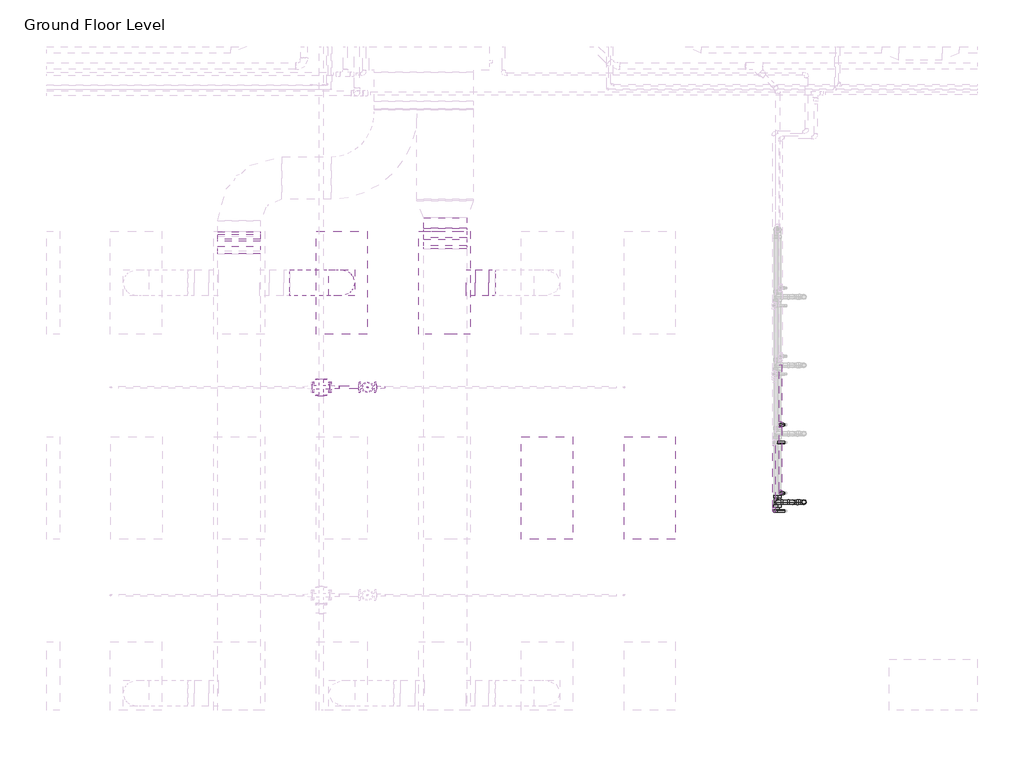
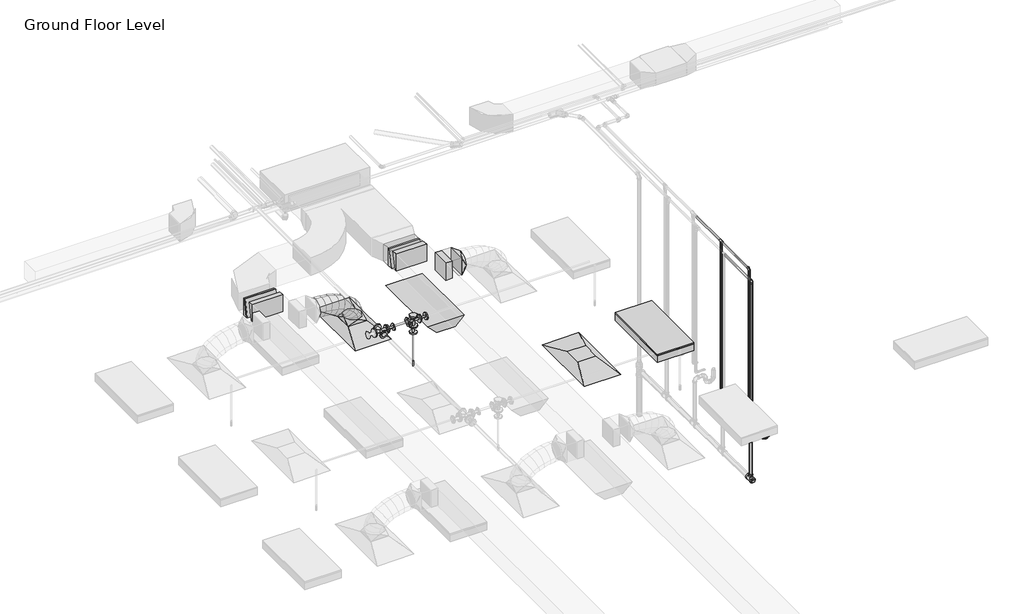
# One storey, part 49 of 74: 17 pipe fittings, 17 pipe segments, 8 duct fittings, 4 duct segments, 2 air terminals, 2 light fixtures, 1 fire suppression terminal.
"""IFC4 building model written with IfcOpenShell, lengths in millimetres."""

from ifc_helpers import new_model, si_unit, point, frame, frame_2d, origin, place, context, project, spatial, polyline, circle_curve, ellipse_curve, trimmed, segment, composite_curve, outline, extrude, transform, mapped, element, save
from ifc_brep_helpers import plane_surface, cylinder_surface, advanced_brep
from components import m_return_diffuser_1200x600_1200_x_600_face_300_x_300_d1983ef6, m_rectangular_elbow_radius_1_w_f78a0081, m_rectangular_elbow_radius_1_w_1a1d0e92, m_rectangular_takeoff_standard_cb0ccb98, m_rectangular_transition_angle_45_degree_8d40617b, m_rectangular_to_round_transition_angle_45_degree_641efff0, m_sprinkler_dry_pendent_hosted_15_mm_dry_pendent_9bda8e11, m_emergency_recessed_lighting_fixture_600x1200_277_5b10b25d, m_troffer_light_parabolic_rectangular1_0600x1200mm_4_lamp_86473d4a, m_bend_pvc_sch_40_dwv_standard_738aab8b, m_cross_flanged_cs_class_150_standard_fc817054, m_plug_pvc_sch_40_dwv_standard_af737ab4, m_reducer_flanged_cs_class_150_standard_ccf252ad, m_reducer_flanged_cs_class_150_standard_d42b2106, m_reducer_flanged_cs_class_150_standard_8338f9e4, m_tee_reducing_sanitary_pvc_sch_40_dwv_standard_21d2848c, m_tee_round_base_flanged_cs_class_150_standard_7e5987a1, standard_b266ab3f, standard_636910a4

model = new_model("IFC4")

# Units and contexts
model_context = context("Model", 3, world=origin())
ifc_project = project(units=[si_unit("LENGTHUNIT", "METRE", prefix="MILLI")], contexts=[model_context])

# Site, building, storey
site = spatial("IfcSite", under=ifc_project)
building = spatial("IfcBuilding", under=site)
storey = spatial("IfcBuildingStorey", under=building, Name="Ground Floor Level", Elevation=900.0)

# Air terminals
placement = place(None, origin())
m_return_diffuser_1200x600_1200_x_600_face_300_x_300_shape = m_return_diffuser_1200x600_1200_x_600_face_300_x_300_d1983ef6(model_context)
element("IfcAirTerminal", 1, ObjectType="M_Return Diffuser 1200x600 : 1200 x 600 Face 300 x 300 Connection", at=placement, inside=storey, context=model_context, shape_type="MappedRepresentation", body=[
    mapped(m_return_diffuser_1200x600_1200_x_600_face_300_x_300_shape, transform((-3337.2327605, 8835.2153534, 3650.0), x_axis=(0.0, 1.0, 0.0), y_axis=(-1.0, 0.0, 0.0), z_axis=(0.0, 0.0, 1.0))),
])
element("IfcAirTerminal", 2, ObjectType="M_Supply Diffuser 1200x600 : 1200 x 600 Face 300 x 300 Connection", at=placement, inside=storey, context=model_context, shape_type="MappedRepresentation", body=[
    mapped(m_return_diffuser_1200x600_1200_x_600_face_300_x_300_shape, transform((-5737.2327605, 11235.2153534, 3650.0), x_axis=(0.0, 1.0, 0.0), y_axis=(-1.0, 0.0, 0.0), z_axis=(0.0, 0.0, 1.0))),
])

# Duct fittings
m_rectangular_elbow_radius_1_w_shape = m_rectangular_elbow_radius_1_w_f78a0081(model_context)
element("IfcDuctFitting", 3, ObjectType="M_Rectangular Elbow - Radius : 1 W", at=placement, inside=storey, context=model_context, shape_type="MappedRepresentation", body=[
    mapped(m_rectangular_elbow_radius_1_w_shape, transform((-4528.6910789, 11671.1593756, 4149.9980527), x_axis=(0.0, 0.999999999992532, -3.864729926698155e-06), y_axis=(0.0, -3.864729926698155e-06, -0.999999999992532), z_axis=(-1.0, 0.0, 0.0))),
])
element("IfcDuctFitting", 4, ObjectType="M_Rectangular Elbow - Radius : 1 W", at=placement, inside=storey, context=model_context, shape_type="MappedRepresentation", body=[
    mapped(m_rectangular_elbow_radius_1_w_shape, transform((-4528.6910789, 11835.9032855, 4107.134916), x_axis=(0.0, -0.999999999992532, 3.864729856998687e-06), y_axis=(0.0, 3.864729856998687e-06, 0.999999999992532), z_axis=(-1.0, 0.0, 0.0))),
])
m_rectangular_elbow_radius_1_w_2_shape = m_rectangular_elbow_radius_1_w_1a1d0e92(model_context)
element("IfcDuctFitting", 5, ObjectType="M_Rectangular Elbow - Radius : 1 W", at=placement, inside=storey, context=model_context, shape_type="MappedRepresentation", body=[
    mapped(m_rectangular_elbow_radius_1_w_2_shape, transform((-6939.6910789, 11605.2153534, 4150.0), x_axis=(0.0, 1.0, 0.0), y_axis=(-4.8368849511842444e-06, 0.0, -0.9999999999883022), z_axis=(-0.9999999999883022, 0.0, 4.8368849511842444e-06))),
])
element("IfcDuctFitting", 6, ObjectType="M_Rectangular Elbow - Radius : 1 W", at=placement, inside=storey, context=model_context, shape_type="MappedRepresentation", body=[
    mapped(m_rectangular_elbow_radius_1_w_2_shape, transform((-6939.6912607, 11801.8710367, 4107.1399598), x_axis=(0.0, -1.0, 0.0), y_axis=(4.836885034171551e-06, 0.0, 0.9999999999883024), z_axis=(-0.9999999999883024, 0.0, 4.836885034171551e-06))),
])
m_rectangular_takeoff_standard_shape = m_rectangular_takeoff_standard_cb0ccb98(model_context)
element("IfcDuctFitting", 7, ObjectType="M_Rectangular Takeoff : Standard", at=placement, inside=storey, context=model_context, shape_type="MappedRepresentation", body=[
    mapped(m_rectangular_takeoff_standard_shape, transform((-4278.6910789, 11235.2153534, 4150.0), x_axis=(1.0, 0.0, 0.0), y_axis=(0.0, -1.0, 0.0), z_axis=(0.0, 0.0, -1.0))),
])
m_rectangular_transition_angle_45_degree_shape = m_rectangular_transition_angle_45_degree_8d40617b(model_context)
element("IfcDuctFitting", 8, ObjectType="M_Rectangular Transition - Angle : 45 Degree", at=placement, inside=storey, context=model_context, shape_type="MappedRepresentation", body=[
    mapped(m_rectangular_transition_angle_45_degree_shape, transform((-6939.6912351, 11774.1025359, 4112.4195134), x_axis=(9.034404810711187e-07, -0.9824014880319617, 0.18678146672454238), y_axis=(0.9999999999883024, 0.0, -4.836885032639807e-06), z_axis=(4.751763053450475e-06, 0.1867814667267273, 0.9824014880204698))),
])
m_rectangular_to_round_transition_angle_45_degree_shape = m_rectangular_to_round_transition_angle_45_degree_641efff0(model_context)
element("IfcDuctFitting", 9, ObjectType="M_Rectangular to Round Transition - Angle : 45 Degree", at=placement, inside=storey, context=model_context, shape_type="MappedRepresentation", body=[
    mapped(m_rectangular_to_round_transition_angle_45_degree_shape, transform((-5737.2327605, 11235.2153534, 3751.6), x_axis=(0.0, 0.0, 1.0), y_axis=(-1.0, 0.0, 0.0), z_axis=(0.0, -1.0, 0.0))),
])
element("IfcDuctFitting", 10, ObjectType="M_Rectangular to Round Transition - Angle : 45 Degree", at=placement, inside=storey, context=model_context, shape_type="MappedRepresentation", body=[
    mapped(m_rectangular_to_round_transition_angle_45_degree_shape, transform((-4018.6725245, 11235.2153534, 4150.0), x_axis=(1.0, 0.0, 0.0), y_axis=(0.0, 1.0, 0.0), z_axis=(0.0, 0.0, 1.0))),
])

# Duct segments
element("IfcDuctSegment", 11, ObjectType="Flex - Round", at=placement, inside=storey, context=model_context, shape_type="AdvancedBrep", body=[
    advanced_brep(
    [(-5587.2327605, 11235.2153534, 3826.6), (-5737.2327605, 11085.2153534, 3826.6), (-5887.2327605, 11235.2153534, 3826.6), (-5737.2327605, 11385.2153534, 3826.6), (-5587.2327605, 11235.2153534, 3882.1261126), (-5737.2327605, 11085.2153534, 3857.3049615), (-5887.2327605, 11235.2153534, 3832.4838104), (-5737.2327605, 11385.2153534, 3857.3049615), (-5618.4260847, 11235.2153534, 3973.7995287), (-5753.8941651, 11085.2153534, 3906.2708192), (-5889.3622454, 11235.2153534, 3838.7421096), (-5753.8941651, 11385.2153534, 3906.2708192), (-5688.1600922, 11235.2153534, 4076.4123668), (-5799.7721827, 11085.2153534, 3973.7798261), (-5911.3842733, 11235.2153534, 3871.1472855), (-5799.7721827, 11385.2153534, 3973.7798261), (-5786.0880408, 11235.2153534, 4155.7111802), (-5868.7075193, 11085.2153534, 4029.6013814), (-5951.3269979, 11235.2153534, 3903.4915826), (-5868.7075193, 11385.2153534, 4029.6013814), (-5894.832581, 11235.2153534, 4212.226815), (-5954.5408807, 11085.2153534, 4074.2098454), (-6014.2491805, 11235.2153534, 3936.1928758), (-5954.5408807, 11385.2153534, 4074.2098454), (-6009.1243732, 11235.2153534, 4252.311196), (-6051.1129728, 11085.2153534, 4108.0795788), (-6093.1015724, 11235.2153534, 3963.8479616), (-6051.1129728, 11385.2153534, 4108.0795788), (-6124.8554478, 11235.2153534, 4279.3189347), (-6152.2645014, 11085.2153534, 4131.684942), (-6179.6735551, 11235.2153534, 3984.0509494), (-6152.2645014, 11385.2153534, 4131.684942), (-6237.5146065, 11235.2153534, 4294.9501488), (-6251.8361725, 11085.2153534, 4145.5002956), (-6266.1577385, 11235.2153534, 3996.0504424), (-6251.8361725, 11385.2153534, 4145.5002956), (-6332.3362491, 11235.2153534, 4300.0), (-6336.3276445, 11085.2153534, 4150.0), (-6340.31904, 11235.2153534, 4000.0), (-6336.3276445, 11385.2153534, 4150.0), (-6343.6686918, 11235.2153534, 4300.0), (-6343.6686918, 11385.2153534, 4150.0), (-6343.6686918, 11235.2153534, 4000.0), (-6343.6686918, 11085.2153534, 4150.0)],
    [
        (0, 1, circle_curve(frame((-5737.2327605, 11235.2153534, 3826.6), z_axis=(0.0, 0.0, -1.0), x_axis=(1.0, 0.0, 0.0)), 150.0)),
        (1, 2, circle_curve(frame((-5737.2327605, 11235.2153534, 3826.6), z_axis=(0.0, 0.0, -1.0), x_axis=(1.0, 0.0, 0.0)), 150.0)),
        (2, 3, circle_curve(frame((-5737.2327605, 11235.2153534, 3826.6), z_axis=(0.0, 0.0, -1.0), x_axis=(1.0, 0.0, 0.0)), 150.0)),
        (3, 0, circle_curve(frame((-5737.2327605, 11235.2153534, 3826.6), z_axis=(0.0, 0.0, -1.0), x_axis=(1.0, 0.0, 0.0)), 150.0)),
        (0, 4),
        (4, 5, ellipse_curve(frame((-5737.2327605, 11235.2153534, 3857.3049615), z_axis=(0.1632543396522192, 0.0, -0.9865840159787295), x_axis=(-0.9865840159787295, 0.0, -0.16325433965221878)), 152.039763, 150.0)),
        (5, 1),
        (5, 6, ellipse_curve(frame((-5737.2327605, 11235.2153534, 3857.3049615), z_axis=(0.1632543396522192, 0.0, -0.9865840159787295), x_axis=(-0.9865840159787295, 0.0, -0.16325433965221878)), 152.039763, 150.0)),
        (6, 2),
        (6, 7, ellipse_curve(frame((-5737.2327605, 11235.2153534, 3857.3049615), z_axis=(0.1632543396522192, 0.0, -0.9865840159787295), x_axis=(-0.9865840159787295, 0.0, -0.16325433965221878)), 152.039763, 150.0)),
        (7, 3),
        (7, 4, ellipse_curve(frame((-5737.2327605, 11235.2153534, 3857.3049615), z_axis=(0.1632543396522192, 0.0, -0.9865840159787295), x_axis=(-0.9865840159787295, 0.0, -0.16325433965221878)), 152.039763, 150.0)),
        (4, 8),
        (8, 9, ellipse_curve(frame((-5753.8941651, 11235.2153534, 3906.2708192), z_axis=(0.44612805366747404, 0.0, -0.8949691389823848), x_axis=(-0.8949691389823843, 0.0, -0.44612805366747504)), 151.366203, 150.0)),
        (9, 5),
        (9, 10, ellipse_curve(frame((-5753.8941651, 11235.2153534, 3906.2708192), z_axis=(0.44612805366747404, 0.0, -0.8949691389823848), x_axis=(-0.8949691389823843, 0.0, -0.44612805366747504)), 151.366203, 150.0)),
        (10, 6),
        (10, 11, ellipse_curve(frame((-5753.8941651, 11235.2153534, 3906.2708192), z_axis=(0.44612805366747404, 0.0, -0.8949691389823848), x_axis=(-0.8949691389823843, 0.0, -0.44612805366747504)), 151.366203, 150.0)),
        (11, 7),
        (11, 8, ellipse_curve(frame((-5753.8941651, 11235.2153534, 3906.2708192), z_axis=(0.44612805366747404, 0.0, -0.8949691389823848), x_axis=(-0.8949691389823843, 0.0, -0.44612805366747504)), 151.366203, 150.0)),
        (8, 12),
        (12, 13, ellipse_curve(frame((-5799.7721827, 11235.2153534, 3973.7798261), z_axis=(0.6768758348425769, 0.0, -0.7360972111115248), x_axis=(-0.7360972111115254, 0.0, -0.6768758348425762)), 151.6268352, 150.0)),
        (13, 9),
        (13, 14, ellipse_curve(frame((-5799.7721827, 11235.2153534, 3973.7798261), z_axis=(0.6768758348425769, 0.0, -0.7360972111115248), x_axis=(-0.7360972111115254, 0.0, -0.6768758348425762)), 151.6268352, 150.0)),
        (14, 10),
        (14, 15, ellipse_curve(frame((-5799.7721827, 11235.2153534, 3973.7798261), z_axis=(0.6768758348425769, 0.0, -0.7360972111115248), x_axis=(-0.7360972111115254, 0.0, -0.6768758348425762)), 151.6268352, 150.0)),
        (15, 11),
        (15, 12, ellipse_curve(frame((-5799.7721827, 11235.2153534, 3973.7798261), z_axis=(0.6768758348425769, 0.0, -0.7360972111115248), x_axis=(-0.7360972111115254, 0.0, -0.6768758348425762)), 151.6268352, 150.0)),
        (12, 16),
        (16, 17, ellipse_curve(frame((-5868.7075193, 11235.2153534, 4029.6013814), z_axis=(0.8364738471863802, 0.0, -0.5480068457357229), x_axis=(-0.5480068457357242, 0.0, -0.8364738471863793)), 150.7635884, 150.0)),
        (17, 13),
        (17, 18, ellipse_curve(frame((-5868.7075193, 11235.2153534, 4029.6013814), z_axis=(0.8364738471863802, 0.0, -0.5480068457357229), x_axis=(-0.5480068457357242, 0.0, -0.8364738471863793)), 150.7635884, 150.0)),
        (18, 14),
        (18, 19, ellipse_curve(frame((-5868.7075193, 11235.2153534, 4029.6013814), z_axis=(0.8364738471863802, 0.0, -0.5480068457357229), x_axis=(-0.5480068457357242, 0.0, -0.8364738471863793)), 150.7635884, 150.0)),
        (19, 15),
        (19, 16, ellipse_curve(frame((-5868.7075193, 11235.2153534, 4029.6013814), z_axis=(0.8364738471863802, 0.0, -0.5480068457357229), x_axis=(-0.5480068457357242, 0.0, -0.8364738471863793)), 150.7635884, 150.0)),
        (16, 20),
        (20, 21, ellipse_curve(frame((-5954.5408807, 11235.2153534, 4074.2098454), z_axis=(0.9177957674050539, 0.0, -0.39705280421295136), x_axis=(-0.39705280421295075, 0.0, -0.9177957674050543)), 150.3787384, 150.0)),
        (21, 17),
        (21, 22, ellipse_curve(frame((-5954.5408807, 11235.2153534, 4074.2098454), z_axis=(0.9177957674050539, 0.0, -0.39705280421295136), x_axis=(-0.39705280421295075, 0.0, -0.9177957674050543)), 150.3787384, 150.0)),
        (22, 18),
        (22, 23, ellipse_curve(frame((-5954.5408807, 11235.2153534, 4074.2098454), z_axis=(0.9177957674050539, 0.0, -0.39705280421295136), x_axis=(-0.39705280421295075, 0.0, -0.9177957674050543)), 150.3787384, 150.0)),
        (23, 19),
        (23, 20, ellipse_curve(frame((-5954.5408807, 11235.2153534, 4074.2098454), z_axis=(0.9177957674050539, 0.0, -0.39705280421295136), x_axis=(-0.39705280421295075, 0.0, -0.9177957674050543)), 150.3787384, 150.0)),
        (20, 24),
        (24, 25, ellipse_curve(frame((-6051.1129728, 11235.2153534, 4108.0795788), z_axis=(0.9601411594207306, 0.0, -0.2795155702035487), x_axis=(-0.27951557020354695, 0.0, -0.9601411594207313)), 150.2191795, 150.0)),
        (25, 21),
        (25, 26, ellipse_curve(frame((-6051.1129728, 11235.2153534, 4108.0795788), z_axis=(0.9601411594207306, 0.0, -0.2795155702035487), x_axis=(-0.27951557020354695, 0.0, -0.9601411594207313)), 150.2191795, 150.0)),
        (26, 22),
        (26, 27, ellipse_curve(frame((-6051.1129728, 11235.2153534, 4108.0795788), z_axis=(0.9601411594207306, 0.0, -0.2795155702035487), x_axis=(-0.27951557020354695, 0.0, -0.9601411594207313)), 150.2191795, 150.0)),
        (27, 23),
        (27, 24, ellipse_curve(frame((-6051.1129728, 11235.2153534, 4108.0795788), z_axis=(0.9601411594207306, 0.0, -0.2795155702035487), x_axis=(-0.27951557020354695, 0.0, -0.9601411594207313)), 150.2191795, 150.0)),
        (24, 28),
        (28, 29, ellipse_curve(frame((-6152.2645014, 11235.2153534, 4131.684942), z_axis=(0.9831991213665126, 0.0, -0.1825362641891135), x_axis=(-0.1825362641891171, 0.0, -0.9831991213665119)), 150.1567581, 150.0)),
        (29, 25),
        (29, 30, ellipse_curve(frame((-6152.2645014, 11235.2153534, 4131.684942), z_axis=(0.9831991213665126, 0.0, -0.1825362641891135), x_axis=(-0.1825362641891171, 0.0, -0.9831991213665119)), 150.1567581, 150.0)),
        (30, 26),
        (30, 31, ellipse_curve(frame((-6152.2645014, 11235.2153534, 4131.684942), z_axis=(0.9831991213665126, 0.0, -0.1825362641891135), x_axis=(-0.1825362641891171, 0.0, -0.9831991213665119)), 150.1567581, 150.0)),
        (31, 27),
        (31, 28, ellipse_curve(frame((-6152.2645014, 11235.2153534, 4131.684942), z_axis=(0.9831991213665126, 0.0, -0.1825362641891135), x_axis=(-0.1825362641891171, 0.0, -0.9831991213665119)), 150.1567581, 150.0)),
        (28, 32),
        (32, 33, ellipse_curve(frame((-6251.8361725, 11235.2153534, 4145.5002956), z_axis=(0.9954398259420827, 0.0, -0.09539157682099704), x_axis=(-0.09539157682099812, 0.0, -0.9954398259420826)), 150.1344926, 150.0)),
        (33, 29),
        (33, 34, ellipse_curve(frame((-6251.8361725, 11235.2153534, 4145.5002956), z_axis=(0.9954398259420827, 0.0, -0.09539157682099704), x_axis=(-0.09539157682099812, 0.0, -0.9954398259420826)), 150.1344926, 150.0)),
        (34, 30),
        (34, 35, ellipse_curve(frame((-6251.8361725, 11235.2153534, 4145.5002956), z_axis=(0.9954398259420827, 0.0, -0.09539157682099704), x_axis=(-0.09539157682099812, 0.0, -0.9954398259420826)), 150.1344926, 150.0)),
        (35, 31),
        (35, 32, ellipse_curve(frame((-6251.8361725, 11235.2153534, 4145.5002956), z_axis=(0.9954398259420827, 0.0, -0.09539157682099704), x_axis=(-0.09539157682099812, 0.0, -0.9954398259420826)), 150.1344926, 150.0)),
        (32, 36),
        (36, 37, ellipse_curve(frame((-6336.3276445, 11235.2153534, 4150.0), z_axis=(0.9996461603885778, 0.0, -0.026599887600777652), x_axis=(-0.026599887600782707, 0.0, -0.9996461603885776)), 150.0530947, 150.0)),
        (37, 33),
        (37, 38, ellipse_curve(frame((-6336.3276445, 11235.2153534, 4150.0), z_axis=(0.9996461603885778, 0.0, -0.026599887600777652), x_axis=(-0.026599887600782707, 0.0, -0.9996461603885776)), 150.0530947, 150.0)),
        (38, 34),
        (38, 39, ellipse_curve(frame((-6336.3276445, 11235.2153534, 4150.0), z_axis=(0.9996461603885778, 0.0, -0.026599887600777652), x_axis=(-0.026599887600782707, 0.0, -0.9996461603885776)), 150.0530947, 150.0)),
        (39, 35),
        (39, 36, ellipse_curve(frame((-6336.3276445, 11235.2153534, 4150.0), z_axis=(0.9996461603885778, 0.0, -0.026599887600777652), x_axis=(-0.026599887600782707, 0.0, -0.9996461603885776)), 150.0530947, 150.0)),
        (40, 41, circle_curve(frame((-6343.6686918, 11235.2153534, 4150.0), z_axis=(-1.0, 0.0, 0.0), x_axis=(0.0, 0.0, 1.0)), 150.0)),
        (41, 42, circle_curve(frame((-6343.6686918, 11235.2153534, 4150.0), z_axis=(-1.0, 0.0, 0.0), x_axis=(0.0, 0.0, 1.0)), 150.0)),
        (42, 43, circle_curve(frame((-6343.6686918, 11235.2153534, 4150.0), z_axis=(-1.0, 0.0, 0.0), x_axis=(0.0, 0.0, 1.0)), 150.0)),
        (43, 40, circle_curve(frame((-6343.6686918, 11235.2153534, 4150.0), z_axis=(-1.0, 0.0, 0.0), x_axis=(0.0, 0.0, 1.0)), 150.0)),
        (36, 40),
        (43, 37),
        (42, 38),
        (41, 39),
    ],
    [
        plane_surface(frame((-5737.2327605, 11085.2153534, 3826.6), z_axis=(0.0, 0.0, -1.0), x_axis=(1.0, 0.0, 0.0))),
        cylinder_surface(frame((-5737.2327605, 11235.2153534, 3826.6), z_axis=(0.0, 0.0, -1.0), x_axis=(1.0, 0.0, 0.0)), 150.0),
        cylinder_surface(frame((-5737.2327605, 11235.2153534, 3857.3049615), z_axis=(0.32212824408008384, 0.0, -0.9466960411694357), x_axis=(0.9466960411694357, 0.0, 0.32212824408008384)), 150.0),
        cylinder_surface(frame((-5753.8941651, 11235.2153534, 3906.2708192), z_axis=(0.5620745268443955, 0.0, -0.8270865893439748), x_axis=(0.8270865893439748, 0.0, 0.5620745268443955)), 150.0),
        cylinder_surface(frame((-5799.7721827, 11235.2153534, 3973.7798261), z_axis=(0.777152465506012, 0.0, -0.6293123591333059), x_axis=(0.6293123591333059, 0.0, 0.777152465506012)), 150.0),
        cylinder_surface(frame((-5868.7075193, 11235.2153534, 4029.6013814), z_axis=(0.887322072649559, 0.0, -0.4611502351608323), x_axis=(0.4611502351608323, 0.0, 0.887322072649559)), 150.0),
        cylinder_surface(frame((-5954.5408807, 11235.2153534, 4074.2098454), z_axis=(0.9436464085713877, 0.0, -0.3309553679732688), x_axis=(0.3309553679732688, 0.0, 0.9436464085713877)), 150.0),
        cylinder_surface(frame((-6051.1129728, 11235.2153534, 4108.0795788), z_axis=(0.9738340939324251, 0.0, -0.22726010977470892), x_axis=(0.22726010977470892, 0.0, 0.9738340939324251)), 150.0),
        cylinder_surface(frame((-6152.2645014, 11235.2153534, 4131.684942), z_axis=(0.9905113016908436, 0.0, -0.137431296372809), x_axis=(0.137431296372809, 0.0, 0.9905113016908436)), 150.0),
        cylinder_surface(frame((-6251.8361725, 11235.2153534, 4145.5002956), z_axis=(0.998584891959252, 0.0, -0.05318095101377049), x_axis=(0.05318095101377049, 0.0, 0.998584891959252)), 150.0),
        plane_surface(frame((-6343.6686918, 11235.2153534, 4000.0), z_axis=(-1.0, 0.0, 0.0), x_axis=(0.0, -1.0, 0.0))),
        cylinder_surface(frame((-6336.3276445, 11235.2153534, 4150.0), z_axis=(1.0, 0.0, 0.0), x_axis=(0.0, 0.0, 1.0)), 150.0),
    ],
    [
        (0, [[1, 2, 3, 4]]),
        (1, [[-1, 5, 6, 7]]),
        (1, [[-2, -7, 8, 9]]),
        (1, [[-3, -9, 10, 11]]),
        (1, [[-4, -11, 12, -5]]),
        (2, [[-6, 13, 14, 15]]),
        (2, [[-8, -15, 16, 17]]),
        (2, [[-10, -17, 18, 19]]),
        (2, [[-12, -19, 20, -13]]),
        (3, [[-14, 21, 22, 23]]),
        (3, [[-16, -23, 24, 25]]),
        (3, [[-18, -25, 26, 27]]),
        (3, [[-20, -27, 28, -21]]),
        (4, [[-22, 29, 30, 31]]),
        (4, [[-24, -31, 32, 33]]),
        (4, [[-26, -33, 34, 35]]),
        (4, [[-28, -35, 36, -29]]),
        (5, [[-30, 37, 38, 39]]),
        (5, [[-32, -39, 40, 41]]),
        (5, [[-34, -41, 42, 43]]),
        (5, [[-36, -43, 44, -37]]),
        (6, [[-38, 45, 46, 47]]),
        (6, [[-40, -47, 48, 49]]),
        (6, [[-42, -49, 50, 51]]),
        (6, [[-44, -51, 52, -45]]),
        (7, [[-46, 53, 54, 55]]),
        (7, [[-48, -55, 56, 57]]),
        (7, [[-50, -57, 58, 59]]),
        (7, [[-52, -59, 60, -53]]),
        (8, [[-54, 61, 62, 63]]),
        (8, [[-56, -63, 64, 65]]),
        (8, [[-58, -65, 66, 67]]),
        (8, [[-60, -67, 68, -61]]),
        (9, [[-62, 69, 70, 71]]),
        (9, [[-64, -71, 72, 73]]),
        (9, [[-66, -73, 74, 75]]),
        (9, [[-68, -75, 76, -69]]),
        (10, [[77, 78, 79, 80]]),
        (11, [[-70, 81, -80, 82]]),
        (11, [[-72, -82, -79, 83]]),
        (11, [[-74, -83, -78, 84]]),
        (11, [[-76, -84, -77, -81]]),
    ],
),
])
element("IfcDuctSegment", 12, ObjectType="Radius Elbows / Taps", at=placement, inside=storey, context=model_context, shape_type="SweptSolid", body=[
    extrude(outline(polyline([(-4177.0910789, 11085.2153534), (-4177.0910789, 11385.2153534), (-4018.6725245, 11385.2153534), (-4018.6725245, 11085.2153534), (-4177.0910789, 11085.2153534)])), frame((0.0, 0.0, 4000.0), z_axis=(0.0, 0.0, 1.0), x_axis=(1.0, 0.0, 0.0)), (0.0, 0.0, 1.0), 300.0),
])
element("IfcDuctSegment", 13, ObjectType="Radius Elbows / Taps", at=placement, inside=storey, context=model_context, shape_type="SweptSolid", body=[
    extrude(outline(polyline([(-4778.6910789, 11996.8633064), (-4278.6910789, 11996.8633064), (-4278.6910789, 11874.2907355), (-4778.6910789, 11874.2907355), (-4778.6910789, 11996.8633064)])), frame((0.0, 0.0, 3957.1342939), z_axis=(0.0, 0.0, 1.0), x_axis=(1.0, 0.0, 0.0)), (0.0, 0.0, 1.0), 300.0),
])
element("IfcDuctSegment", 14, ObjectType="Radius Elbows / Taps", at=placement, inside=storey, context=model_context, shape_type="SweptSolid", body=[
    extrude(outline(polyline([(0.0, -500.0), (0.0, 0.0), (93.4537824, 0.0), (93.4537824, -500.0), (0.0, -500.0)])), frame((-4778.6910789, 11670.5403736, 3995.1651971), z_axis=(0.0, 0.25179738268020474, 0.9677799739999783), x_axis=(0.0, 0.9677799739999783, -0.25179738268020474)), (0.0, 0.0, 1.0), 300.0),
])

# Fire suppression terminal
m_sprinkler_dry_pendent_hosted_15_mm_dry_pendent_shape = m_sprinkler_dry_pendent_hosted_15_mm_dry_pendent_9bda8e11(model_context)
element("IfcFireSuppressionTerminal", 15, ObjectType="M_Sprinkler - Dry - Pendent - Hosted : 15 mm Dry Pendent", at=placement, inside=storey, context=model_context, shape_type="MappedRepresentation", body=[
    mapped(m_sprinkler_dry_pendent_hosted_15_mm_dry_pendent_shape, transform((-5437.2327605, 10013.008259, 3650.0), x_axis=(1.0, 0.0, 0.0), y_axis=(0.0, -1.0, 0.0), z_axis=(0.0, 0.0, -1.0))),
])

# Light fixtures
m_emergency_recessed_lighting_fixture_600x1200_277_shape = m_emergency_recessed_lighting_fixture_600x1200_277_5b10b25d(model_context)
element("IfcLightFixture", 16, ObjectType="M_Emergency Recessed Lighting Fixture : 600x1200 - 277", at=placement, inside=storey, context=model_context, shape_type="MappedRepresentation", body=[
    mapped(m_emergency_recessed_lighting_fixture_600x1200_277_shape, transform((-4837.2327605, 10635.2153534, 3650.0), x_axis=(0.0, 1.0, 0.0), y_axis=(-1.0, 0.0, 0.0), z_axis=(0.0, 0.0, 1.0))),
])
m_troffer_light_parabolic_rectangular1_0600x1200mm_4_lamp_shape = m_troffer_light_parabolic_rectangular1_0600x1200mm_4_lamp_86473d4a(model_context)
element("IfcLightFixture", 17, ObjectType="M_Troffer Light - Parabolic Rectangular1 : 0600x1200mm(4 Lamp) - 277V 2", at=placement, inside=storey, context=model_context, shape_type="MappedRepresentation", body=[
    mapped(m_troffer_light_parabolic_rectangular1_0600x1200mm_4_lamp_shape, transform((-2196.6986926, 8853.918855, 3650.0), x_axis=(0.0, 1.0, 0.0), y_axis=(-1.0, 0.0, 0.0), z_axis=(0.0, 0.0, 1.0))),
])

# Pipe fittings
m_bend_pvc_sch_40_dwv_standard_shape = m_bend_pvc_sch_40_dwv_standard_738aab8b(model_context)
element("IfcPipeFitting", 18, ObjectType="M_Bend - PVC - Sch 40 - DWV : Standard", at=placement, inside=storey, context=model_context, shape_type="MappedRepresentation", body=[
    mapped(m_bend_pvc_sch_40_dwv_standard_shape, transform((-463.6645494, 8671.1979139, 1370.0), x_axis=(-1.0, 0.0, 0.0), y_axis=(0.0, 0.0, 1.0), z_axis=(0.0, 1.0, 0.0))),
])
element("IfcPipeFitting", 19, ObjectType="M_Bend - PVC - Sch 40 - DWV : Standard", at=placement, inside=storey, context=model_context, shape_type="MappedRepresentation", body=[
    mapped(m_bend_pvc_sch_40_dwv_standard_shape, transform((-463.6645494, 8671.1979139, 1510.0), x_axis=(0.0, 0.0, 1.0), y_axis=(-1.0, 0.0, 0.0), z_axis=(0.0, -1.0, 0.0))),
])
element("IfcPipeFitting", 20, ObjectType="M_Bend - PVC - Sch 40 - DWV : Standard", at=placement, inside=storey, context=model_context, shape_type="MappedRepresentation", body=[
    mapped(m_bend_pvc_sch_40_dwv_standard_shape, transform((-333.6645494, 8671.1979139, 1370.0), x_axis=(1.0, 0.0, 0.0), y_axis=(0.0, 0.0, 1.0), z_axis=(0.0, -1.0, 0.0))),
])
element("IfcPipeFitting", 21, ObjectType="M_Bend - PVC - Sch 40 - DWV : Standard", at=placement, inside=storey, context=model_context, shape_type="MappedRepresentation", body=[
    mapped(m_bend_pvc_sch_40_dwv_standard_shape, transform((-642.2301761, 8671.1979139, 1510.0), x_axis=(-1.0, 0.0, 0.0), y_axis=(0.0, 0.0, -1.0), z_axis=(0.0, -1.0, 0.0))),
])
m_cross_flanged_cs_class_150_standard_shape = m_cross_flanged_cs_class_150_standard_fc817054(model_context)
element("IfcPipeFitting", 22, ObjectType="M_Cross - Flanged - CS - Class 150 : Standard", at=placement, inside=storey, context=model_context, shape_type="MappedRepresentation", body=[
    mapped(m_cross_flanged_cs_class_150_standard_shape, transform((-5978.130502, 10013.008259, 4360.0), x_axis=(0.0, 1.0, 0.0), y_axis=(1.0, 0.0, 0.0), z_axis=(0.0, 0.0, -1.0))),
])
m_plug_pvc_sch_40_dwv_standard_shape = m_plug_pvc_sch_40_dwv_standard_af737ab4(model_context)
element("IfcPipeFitting", 23, ObjectType="M_Plug - PVC - Sch 40 - DWV : Standard", at=placement, inside=storey, context=model_context, shape_type="MappedRepresentation", body=[
    mapped(m_plug_pvc_sch_40_dwv_standard_shape, transform((-642.2301761, 8611.7151447, 727.6937137), x_axis=(0.0, -0.9999500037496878, 0.009999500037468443), y_axis=(0.0, -0.009999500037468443, -0.9999500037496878), z_axis=(1.0, 0.0, 0.0))),
])
m_reducer_flanged_cs_class_150_standard_shape = m_reducer_flanged_cs_class_150_standard_ccf252ad(model_context)
element("IfcPipeFitting", 24, ObjectType="M_Reducer - Flanged - CS - Class 150 : Standard", at=placement, inside=storey, context=model_context, shape_type="MappedRepresentation", body=[
    mapped(m_reducer_flanged_cs_class_150_standard_shape, transform((-5437.2327605, 10013.008259, 4259.2914063), x_axis=(0.0, 0.0, -1.0), y_axis=(-1.0, 0.0, 0.0), z_axis=(0.0, 1.0, 0.0))),
])
m_reducer_flanged_cs_class_150_standard_2_shape = m_reducer_flanged_cs_class_150_standard_d42b2106(model_context)
element("IfcPipeFitting", 25, ObjectType="M_Reducer - Flanged - CS - Class 150 : Standard", at=placement, inside=storey, context=model_context, shape_type="MappedRepresentation", body=[
    mapped(m_reducer_flanged_cs_class_150_standard_2_shape, transform((-5336.5241668, 10013.008259, 4360.0), x_axis=(1.0, 0.0, 0.0), y_axis=(0.0, 1.0, 0.0), z_axis=(0.0, 0.0, 1.0))),
])
m_reducer_flanged_cs_class_150_standard_3_shape = m_reducer_flanged_cs_class_150_standard_8338f9e4(model_context)
element("IfcPipeFitting", 26, ObjectType="M_Reducer - Flanged - CS - Class 150 : Standard", at=placement, inside=storey, context=model_context, shape_type="MappedRepresentation", body=[
    mapped(m_reducer_flanged_cs_class_150_standard_3_shape, transform((-5876.130502, 10013.008259, 4360.0), x_axis=(1.0, 0.0, 0.0), y_axis=(0.0, 1.0, 0.0), z_axis=(0.0, 0.0, 1.0))),
])
m_tee_reducing_sanitary_pvc_sch_40_dwv_standard_shape = m_tee_reducing_sanitary_pvc_sch_40_dwv_standard_21d2848c(model_context)
element("IfcPipeFitting", 27, ObjectType="M_Tee Reducing Sanitary - PVC - Sch 40 - DWV : Standard", at=placement, inside=storey, context=model_context, shape_type="MappedRepresentation", body=[
    mapped(m_tee_reducing_sanitary_pvc_sch_40_dwv_standard_shape, transform((-642.2301761, 8671.1979139, 727.098886), x_axis=(0.0, -0.9999500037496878, 0.009999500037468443), y_axis=(0.0, -0.009999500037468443, -0.9999500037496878), z_axis=(1.0, 0.0, 0.0))),
])
m_tee_round_base_flanged_cs_class_150_standard_shape = m_tee_round_base_flanged_cs_class_150_standard_7e5987a1(model_context)
element("IfcPipeFitting", 28, ObjectType="M_Tee Round Base - Flanged - CS - Class 150 : Standard", at=placement, inside=storey, context=model_context, shape_type="MappedRepresentation", body=[
    mapped(m_tee_round_base_flanged_cs_class_150_standard_shape, transform((-5437.2327605, 10013.008259, 4360.0), x_axis=(1.0, 0.0, 0.0), y_axis=(0.0, 0.0, 1.0), z_axis=(0.0, -1.0, 0.0))),
])
standard_shape = standard_b266ab3f(model_context)
element("IfcPipeFitting", 29, ObjectType="M_Elbow - CPVC - Sch 40 : Standard", at=placement, inside=storey, context=model_context, shape_type="MappedRepresentation", body=[
    mapped(standard_shape, transform((-607.2327605, 9575.5128345, 1690.0), x_axis=(0.0, 0.0, -1.0), y_axis=(1.0, 0.0, 0.0), z_axis=(0.0, -1.0, 0.0))),
])
element("IfcPipeFitting", 30, ObjectType="M_Elbow - CPVC - Sch 40 : Standard", at=placement, inside=storey, context=model_context, shape_type="MappedRepresentation", body=[
    mapped(standard_shape, transform((-607.2327605, 8775.5128345, 1690.0), x_axis=(0.0, 0.0, -1.0), y_axis=(1.0, 0.0, 0.0), z_axis=(0.0, -1.0, 0.0))),
])
element("IfcPipeFitting", 31, ObjectType="M_Elbow - CPVC - Sch 40 : Standard", at=placement, inside=storey, context=model_context, shape_type="MappedRepresentation", body=[
    mapped(standard_shape, transform((-607.2327605, 8775.5128345, 4315.0), x_axis=(0.0, -1.0, 0.0), y_axis=(0.0, 0.0, -1.0), z_axis=(1.0, 0.0, 0.0))),
])
element("IfcPipeFitting", 32, ObjectType="M_Elbow - CPVC - Sch 40 : Standard", at=placement, inside=storey, context=model_context, shape_type="MappedRepresentation", body=[
    mapped(standard_shape, transform((-684.0671674, 8566.8829933, 1690.0), x_axis=(-1.0, 0.0, 0.0), y_axis=(0.0, 0.0, 1.0), z_axis=(0.0, 1.0, 0.0))),
])
element("IfcPipeFitting", 33, ObjectType="M_Elbow - CPVC - Sch 40 : Standard", at=placement, inside=storey, context=model_context, shape_type="MappedRepresentation", body=[
    mapped(standard_shape, transform((-684.0671674, 8566.8829933, 4250.0), x_axis=(0.0, 0.0, 1.0), y_axis=(0.0, 1.0, 0.0), z_axis=(-1.0, 0.0, 0.0))),
])
standard_2_shape = standard_636910a4(model_context)
element("IfcPipeFitting", 34, ObjectType="M_Tee - CPVC - Sch 40 : Standard", at=placement, inside=storey, context=model_context, shape_type="MappedRepresentation", body=[
    mapped(standard_2_shape, transform((-607.2327605, 9575.5128345, 4315.0), x_axis=(0.0, 1.0, 0.0), y_axis=(0.0, 0.0, 1.0), z_axis=(1.0, 0.0, 0.0))),
])

# Pipe segments
element("IfcPipeSegment", 35, ObjectType="CPVC", at=placement, inside=storey, context=model_context, shape_type="SweptSolid", body=[
    extrude(outline(composite_curve([segment(trimmed(circle_curve(frame_2d((9575.5128345, 1690.0)), 13.335), [point((9562.1778345, 1690.0))], [point((9575.5128345, 1703.335))], False, "CARTESIAN"), True, "CONTINUOUS"), segment(trimmed(circle_curve(frame_2d((9575.5128345, 1690.0)), 13.335), [point((9575.5128345, 1703.335))], [point((9588.8478345, 1690.0))], False, "CARTESIAN"), True, "CONTINUOUS"), segment(trimmed(circle_curve(frame_2d((9575.5128345, 1690.0)), 13.335), [point((9588.8478345, 1690.0))], [point((9575.5128345, 1676.665))], False, "CARTESIAN"), True, "CONTINUOUS"), segment(trimmed(circle_curve(frame_2d((9575.5128345, 1690.0)), 13.335), [point((9575.5128345, 1676.665))], [point((9562.1778345, 1690.0))], False, "CARTESIAN"), True, "CONTINUOUS")], self_intersect=False)), frame((-571.9077105, 0.0, 0.0), z_axis=(1.0, 0.0, 0.0), x_axis=(0.0, 1.0, 0.0)), (0.0, 0.0, 1.0), 14.67495),
])
element("IfcPipeSegment", 36, ObjectType="CPVC", at=placement, inside=storey, context=model_context, shape_type="SweptSolid", body=[
    extrude(outline(composite_curve([segment(trimmed(circle_curve(frame_2d((-607.2327605, 9575.5128345)), 13.335), [point((-593.8977605, 9575.5128345))], [point((-607.2327605, 9562.1778345))], False, "CARTESIAN"), True, "CONTINUOUS"), segment(trimmed(circle_curve(frame_2d((-607.2327605, 9575.5128345)), 13.335), [point((-607.2327605, 9562.1778345))], [point((-620.5677605, 9575.5128345))], False, "CARTESIAN"), True, "CONTINUOUS"), segment(trimmed(circle_curve(frame_2d((-607.2327605, 9575.5128345)), 13.335), [point((-620.5677605, 9575.5128345))], [point((-607.2327605, 9588.8478345))], False, "CARTESIAN"), True, "CONTINUOUS"), segment(trimmed(circle_curve(frame_2d((-607.2327605, 9575.5128345)), 13.335), [point((-607.2327605, 9588.8478345))], [point((-593.8977605, 9575.5128345))], False, "CARTESIAN"), True, "CONTINUOUS")], self_intersect=False)), frame((0.0, 0.0, 1725.32505), z_axis=(0.0, 0.0, 1.0), x_axis=(1.0, 0.0, 0.0)), (0.0, 0.0, 1.0), 2557.13755),
])
element("IfcPipeSegment", 37, ObjectType="CPVC", at=placement, inside=storey, context=model_context, shape_type="SweptSolid", body=[
    extrude(outline(composite_curve([segment(trimmed(circle_curve(frame_2d((4315.0, -607.2327605)), 13.335), [point((4315.0, -620.5677605))], [point((4301.665, -607.2327605))], False, "CARTESIAN"), True, "CONTINUOUS"), segment(trimmed(circle_curve(frame_2d((4315.0, -607.2327605)), 13.335), [point((4301.665, -607.2327605))], [point((4315.0, -593.8977605))], False, "CARTESIAN"), True, "CONTINUOUS"), segment(trimmed(circle_curve(frame_2d((4315.0, -607.2327605)), 13.335), [point((4315.0, -593.8977605))], [point((4328.335, -607.2327605))], False, "CARTESIAN"), True, "CONTINUOUS"), segment(trimmed(circle_curve(frame_2d((4315.0, -607.2327605)), 13.335), [point((4328.335, -607.2327605))], [point((4315.0, -620.5677605))], False, "CARTESIAN"), True, "CONTINUOUS")], self_intersect=False)), frame((0.0, 9608.0502345, 0.0), z_axis=(0.0, 1.0, 0.0), x_axis=(0.0, 0.0, 1.0)), (0.0, 0.0, 1.0), 670.6124),
])
element("IfcPipeSegment", 38, ObjectType="CPVC", at=placement, inside=storey, context=model_context, shape_type="SweptSolid", body=[
    extrude(outline(composite_curve([segment(trimmed(circle_curve(frame_2d((8775.5128345, 1690.0)), 13.335), [point((8762.1778345, 1690.0))], [point((8775.5128345, 1703.335))], False, "CARTESIAN"), True, "CONTINUOUS"), segment(trimmed(circle_curve(frame_2d((8775.5128345, 1690.0)), 13.335), [point((8775.5128345, 1703.335))], [point((8788.8478345, 1690.0))], False, "CARTESIAN"), True, "CONTINUOUS"), segment(trimmed(circle_curve(frame_2d((8775.5128345, 1690.0)), 13.335), [point((8788.8478345, 1690.0))], [point((8775.5128345, 1676.665))], False, "CARTESIAN"), True, "CONTINUOUS"), segment(trimmed(circle_curve(frame_2d((8775.5128345, 1690.0)), 13.335), [point((8775.5128345, 1676.665))], [point((8762.1778345, 1690.0))], False, "CARTESIAN"), True, "CONTINUOUS")], self_intersect=False)), frame((-571.9077105, 0.0, 0.0), z_axis=(1.0, 0.0, 0.0), x_axis=(0.0, 1.0, 0.0)), (0.0, 0.0, 1.0), 14.67495),
])
element("IfcPipeSegment", 39, ObjectType="CPVC", at=placement, inside=storey, context=model_context, shape_type="SweptSolid", body=[
    extrude(outline(composite_curve([segment(trimmed(circle_curve(frame_2d((-607.2327605, 8775.5128345)), 13.335), [point((-593.8977605, 8775.5128345))], [point((-607.2327605, 8762.1778345))], False, "CARTESIAN"), True, "CONTINUOUS"), segment(trimmed(circle_curve(frame_2d((-607.2327605, 8775.5128345)), 13.335), [point((-607.2327605, 8762.1778345))], [point((-620.5677605, 8775.5128345))], False, "CARTESIAN"), True, "CONTINUOUS"), segment(trimmed(circle_curve(frame_2d((-607.2327605, 8775.5128345)), 13.335), [point((-620.5677605, 8775.5128345))], [point((-607.2327605, 8788.8478345))], False, "CARTESIAN"), True, "CONTINUOUS"), segment(trimmed(circle_curve(frame_2d((-607.2327605, 8775.5128345)), 13.335), [point((-607.2327605, 8788.8478345))], [point((-593.8977605, 8775.5128345))], False, "CARTESIAN"), True, "CONTINUOUS")], self_intersect=False)), frame((0.0, 0.0, 1725.32505), z_axis=(0.0, 0.0, 1.0), x_axis=(1.0, 0.0, 0.0)), (0.0, 0.0, 1.0), 2554.3499),
])
element("IfcPipeSegment", 40, ObjectType="CPVC", at=placement, inside=storey, context=model_context, shape_type="SweptSolid", body=[
    extrude(outline(composite_curve([segment(trimmed(circle_curve(frame_2d((4315.0, -607.2327605)), 13.335), [point((4315.0, -620.5677605))], [point((4301.665, -607.2327605))], False, "CARTESIAN"), True, "CONTINUOUS"), segment(trimmed(circle_curve(frame_2d((4315.0, -607.2327605)), 13.335), [point((4301.665, -607.2327605))], [point((4315.0, -593.8977605))], False, "CARTESIAN"), True, "CONTINUOUS"), segment(trimmed(circle_curve(frame_2d((4315.0, -607.2327605)), 13.335), [point((4315.0, -593.8977605))], [point((4328.335, -607.2327605))], False, "CARTESIAN"), True, "CONTINUOUS"), segment(trimmed(circle_curve(frame_2d((4315.0, -607.2327605)), 13.335), [point((4328.335, -607.2327605))], [point((4315.0, -620.5677605))], False, "CARTESIAN"), True, "CONTINUOUS")], self_intersect=False)), frame((0.0, 8810.8378845, 0.0), z_axis=(0.0, 1.0, 0.0), x_axis=(0.0, 0.0, 1.0)), (0.0, 0.0, 1.0), 732.13755),
])
element("IfcPipeSegment", 41, ObjectType="CPVC", at=placement, inside=storey, context=model_context, shape_type="SweptSolid", body=[
    extrude(outline(composite_curve([segment(trimmed(circle_curve(frame_2d((8566.8829933, 1690.0)), 13.335), [point((8580.2179933, 1690.0))], [point((8566.8829933, 1676.665))], False, "CARTESIAN"), True, "CONTINUOUS"), segment(trimmed(circle_curve(frame_2d((8566.8829933, 1690.0)), 13.335), [point((8566.8829933, 1676.665))], [point((8553.5479933, 1690.0))], False, "CARTESIAN"), True, "CONTINUOUS"), segment(trimmed(circle_curve(frame_2d((8566.8829933, 1690.0)), 13.335), [point((8553.5479933, 1690.0))], [point((8566.8829933, 1703.335))], False, "CARTESIAN"), True, "CONTINUOUS"), segment(trimmed(circle_curve(frame_2d((8566.8829933, 1690.0)), 13.335), [point((8566.8829933, 1703.335))], [point((8580.2179933, 1690.0))], False, "CARTESIAN"), True, "CONTINUOUS")], self_intersect=False)), frame((-648.7421174, 0.0, 0.0), z_axis=(1.0, 0.0, 0.0), x_axis=(0.0, 1.0, 0.0)), (0.0, 0.0, 1.0), 91.5093569),
])
element("IfcPipeSegment", 42, ObjectType="CPVC", at=placement, inside=storey, context=model_context, shape_type="SweptSolid", body=[
    extrude(outline(composite_curve([segment(trimmed(circle_curve(frame_2d((-684.0671674, 8566.8829933)), 13.335), [point((-697.4021674, 8566.8829933))], [point((-684.0671674, 8580.2179933))], False, "CARTESIAN"), True, "CONTINUOUS"), segment(trimmed(circle_curve(frame_2d((-684.0671674, 8566.8829933)), 13.335), [point((-684.0671674, 8580.2179933))], [point((-670.7321674, 8566.8829933))], False, "CARTESIAN"), True, "CONTINUOUS"), segment(trimmed(circle_curve(frame_2d((-684.0671674, 8566.8829933)), 13.335), [point((-670.7321674, 8566.8829933))], [point((-684.0671674, 8553.5479933))], False, "CARTESIAN"), True, "CONTINUOUS"), segment(trimmed(circle_curve(frame_2d((-684.0671674, 8566.8829933)), 13.335), [point((-684.0671674, 8553.5479933))], [point((-697.4021674, 8566.8829933))], False, "CARTESIAN"), True, "CONTINUOUS")], self_intersect=False)), frame((0.0, 0.0, 1725.32505), z_axis=(0.0, 0.0, 1.0), x_axis=(1.0, 0.0, 0.0)), (0.0, 0.0, 1.0), 2489.3499),
])
element("IfcPipeSegment", 43, ObjectType="CPVC", at=placement, inside=storey, context=model_context, shape_type="SweptSolid", body=[
    extrude(outline(composite_curve([segment(trimmed(circle_curve(frame_2d((9366.8829933, 1690.0)), 13.335), [point((9380.2179933, 1690.0))], [point((9366.8829933, 1676.665))], False, "CARTESIAN"), True, "CONTINUOUS"), segment(trimmed(circle_curve(frame_2d((9366.8829933, 1690.0)), 13.335), [point((9366.8829933, 1676.665))], [point((9353.5479933, 1690.0))], False, "CARTESIAN"), True, "CONTINUOUS"), segment(trimmed(circle_curve(frame_2d((9366.8829933, 1690.0)), 13.335), [point((9353.5479933, 1690.0))], [point((9366.8829933, 1703.335))], False, "CARTESIAN"), True, "CONTINUOUS"), segment(trimmed(circle_curve(frame_2d((9366.8829933, 1690.0)), 13.335), [point((9366.8829933, 1703.335))], [point((9380.2179933, 1690.0))], False, "CARTESIAN"), True, "CONTINUOUS")], self_intersect=False)), frame((-648.7421174, 0.0, 0.0), z_axis=(1.0, 0.0, 0.0), x_axis=(0.0, 1.0, 0.0)), (0.0, 0.0, 1.0), 91.5093569),
])
element("IfcPipeSegment", 44, ObjectType="CPVC", at=placement, inside=storey, context=model_context, shape_type="SweptSolid", body=[
    extrude(outline(composite_curve([segment(trimmed(circle_curve(frame_2d((4250.0, -684.0671674)), 13.335), [point((4250.0, -670.7321674))], [point((4263.335, -684.0671674))], False, "CARTESIAN"), True, "CONTINUOUS"), segment(trimmed(circle_curve(frame_2d((4250.0, -684.0671674)), 13.335), [point((4263.335, -684.0671674))], [point((4250.0, -697.4021674))], False, "CARTESIAN"), True, "CONTINUOUS"), segment(trimmed(circle_curve(frame_2d((4250.0, -684.0671674)), 13.335), [point((4250.0, -697.4021674))], [point((4236.665, -684.0671674))], False, "CARTESIAN"), True, "CONTINUOUS"), segment(trimmed(circle_curve(frame_2d((4250.0, -684.0671674)), 13.335), [point((4236.665, -684.0671674))], [point((4250.0, -670.7321674))], False, "CARTESIAN"), True, "CONTINUOUS")], self_intersect=False)), frame((0.0, 8602.2080433, 0.0), z_axis=(0.0, 1.0, 0.0), x_axis=(0.0, 0.0, 1.0)), (0.0, 0.0, 1.0), 732.13755),
])
element("IfcPipeSegment", 45, ObjectType="PVC - DWV", at=placement, inside=storey, context=model_context, shape_type="SweptSolid", body=[
    extrude(outline(composite_curve([segment(trimmed(circle_curve(frame_2d((-333.6645494, 8671.1979139)), 24.13), [point((-357.7945494, 8671.1979139))], [point((-333.6645494, 8695.3279139))], False, "CARTESIAN"), True, "CONTINUOUS"), segment(trimmed(circle_curve(frame_2d((-333.6645494, 8671.1979139)), 24.13), [point((-333.6645494, 8695.3279139))], [point((-309.5345494, 8671.1979139))], False, "CARTESIAN"), True, "CONTINUOUS"), segment(trimmed(circle_curve(frame_2d((-333.6645494, 8671.1979139)), 24.13), [point((-309.5345494, 8671.1979139))], [point((-333.6645494, 8647.0679139))], False, "CARTESIAN"), True, "CONTINUOUS"), segment(trimmed(circle_curve(frame_2d((-333.6645494, 8671.1979139)), 24.13), [point((-333.6645494, 8647.0679139))], [point((-357.7945494, 8671.1979139))], False, "CARTESIAN"), True, "CONTINUOUS")], self_intersect=False)), frame((0.0, 0.0, 1431.8998), z_axis=(0.0, 0.0, 1.0), x_axis=(1.0, 0.0, 0.0)), (0.0, 0.0, 1.0), 118.1002),
])
element("IfcPipeSegment", 46, ObjectType="PVC - DWV", at=placement, inside=storey, context=model_context, shape_type="SweptSolid", body=[
    extrude(outline(composite_curve([segment(trimmed(circle_curve(frame_2d((8671.1979139, 1370.0)), 24.13), [point((8695.3279139, 1370.0))], [point((8671.1979139, 1345.87))], False, "CARTESIAN"), True, "CONTINUOUS"), segment(trimmed(circle_curve(frame_2d((8671.1979139, 1370.0)), 24.13), [point((8671.1979139, 1345.87))], [point((8647.0679139, 1370.0))], False, "CARTESIAN"), True, "CONTINUOUS"), segment(trimmed(circle_curve(frame_2d((8671.1979139, 1370.0)), 24.13), [point((8647.0679139, 1370.0))], [point((8671.1979139, 1394.13))], False, "CARTESIAN"), True, "CONTINUOUS"), segment(trimmed(circle_curve(frame_2d((8671.1979139, 1370.0)), 24.13), [point((8671.1979139, 1394.13))], [point((8695.3279139, 1370.0))], False, "CARTESIAN"), True, "CONTINUOUS")], self_intersect=False)), frame((-401.7647494, 0.0, 0.0), z_axis=(1.0, 0.0, 0.0), x_axis=(0.0, 1.0, 0.0)), (0.0, 0.0, 1.0), 6.2004),
])
element("IfcPipeSegment", 47, ObjectType="PVC - DWV", at=placement, inside=storey, context=model_context, shape_type="SweptSolid", body=[
    extrude(outline(composite_curve([segment(trimmed(circle_curve(frame_2d((-463.6645494, 8671.1979139)), 24.13), [point((-487.7945494, 8671.1979139))], [point((-463.6645494, 8695.3279139))], False, "CARTESIAN"), True, "CONTINUOUS"), segment(trimmed(circle_curve(frame_2d((-463.6645494, 8671.1979139)), 24.13), [point((-463.6645494, 8695.3279139))], [point((-439.5345494, 8671.1979139))], False, "CARTESIAN"), True, "CONTINUOUS"), segment(trimmed(circle_curve(frame_2d((-463.6645494, 8671.1979139)), 24.13), [point((-439.5345494, 8671.1979139))], [point((-463.6645494, 8647.0679139))], False, "CARTESIAN"), True, "CONTINUOUS"), segment(trimmed(circle_curve(frame_2d((-463.6645494, 8671.1979139)), 24.13), [point((-463.6645494, 8647.0679139))], [point((-487.7945494, 8671.1979139))], False, "CARTESIAN"), True, "CONTINUOUS")], self_intersect=False)), frame((0.0, 0.0, 1431.8998), z_axis=(0.0, 0.0, 1.0), x_axis=(1.0, 0.0, 0.0)), (0.0, 0.0, 1.0), 16.2004),
])
element("IfcPipeSegment", 48, ObjectType="PVC - DWV", at=placement, inside=storey, context=model_context, shape_type="SweptSolid", body=[
    extrude(outline(composite_curve([segment(trimmed(circle_curve(frame_2d((8671.1979139, 1510.0)), 24.13), [point((8695.3279139, 1510.0))], [point((8671.1979139, 1485.87))], False, "CARTESIAN"), True, "CONTINUOUS"), segment(trimmed(circle_curve(frame_2d((8671.1979139, 1510.0)), 24.13), [point((8671.1979139, 1485.87))], [point((8647.0679139, 1510.0))], False, "CARTESIAN"), True, "CONTINUOUS"), segment(trimmed(circle_curve(frame_2d((8671.1979139, 1510.0)), 24.13), [point((8647.0679139, 1510.0))], [point((8671.1979139, 1534.13))], False, "CARTESIAN"), True, "CONTINUOUS"), segment(trimmed(circle_curve(frame_2d((8671.1979139, 1510.0)), 24.13), [point((8671.1979139, 1534.13))], [point((8695.3279139, 1510.0))], False, "CARTESIAN"), True, "CONTINUOUS")], self_intersect=False)), frame((-580.3303761, 0.0, 0.0), z_axis=(1.0, 0.0, 0.0), x_axis=(0.0, 1.0, 0.0)), (0.0, 0.0, 1.0), 54.7660268),
])
element("IfcPipeSegment", 49, ObjectType="PVC - DWV", at=placement, inside=storey, context=model_context, shape_type="SweptSolid", body=[
    extrude(outline(composite_curve([segment(trimmed(circle_curve(frame_2d((-642.2301761, 8671.1979139)), 24.13), [point((-666.3601761, 8671.1979139))], [point((-642.2301761, 8695.3279139))], False, "CARTESIAN"), True, "CONTINUOUS"), segment(trimmed(circle_curve(frame_2d((-642.2301761, 8671.1979139)), 24.13), [point((-642.2301761, 8695.3279139))], [point((-618.1001761, 8671.1979139))], False, "CARTESIAN"), True, "CONTINUOUS"), segment(trimmed(circle_curve(frame_2d((-642.2301761, 8671.1979139)), 24.13), [point((-618.1001761, 8671.1979139))], [point((-642.2301761, 8647.0679139))], False, "CARTESIAN"), True, "CONTINUOUS"), segment(trimmed(circle_curve(frame_2d((-642.2301761, 8671.1979139)), 24.13), [point((-642.2301761, 8647.0679139))], [point((-666.3601761, 8671.1979139))], False, "CARTESIAN"), True, "CONTINUOUS")], self_intersect=False)), frame((0.0, 0.0, 807.9463422), z_axis=(0.0, 0.0, 1.0), x_axis=(1.0, 0.0, 0.0)), (0.0, 0.0, 1.0), 640.1538578),
])
element("IfcPipeSegment", 50, ObjectType="Steel flanged", at=placement, inside=storey, context=model_context, shape_type="SweptSolid", body=[
    extrude(outline(composite_curve([segment(trimmed(circle_curve(frame_2d((-5437.2327605, 10013.008259)), 10.668), [point((-5447.9007605, 10013.008259))], [point((-5437.2327605, 10023.676259))], False, "CARTESIAN"), True, "CONTINUOUS"), segment(trimmed(circle_curve(frame_2d((-5437.2327605, 10013.008259)), 10.668), [point((-5437.2327605, 10023.676259))], [point((-5426.5647605, 10013.008259))], False, "CARTESIAN"), True, "CONTINUOUS"), segment(trimmed(circle_curve(frame_2d((-5437.2327605, 10013.008259)), 10.668), [point((-5426.5647605, 10013.008259))], [point((-5437.2327605, 10002.340259))], False, "CARTESIAN"), True, "CONTINUOUS"), segment(trimmed(circle_curve(frame_2d((-5437.2327605, 10013.008259)), 10.668), [point((-5437.2327605, 10002.340259))], [point((-5447.9007605, 10013.008259))], False, "CARTESIAN"), True, "CONTINUOUS")], self_intersect=False)), frame((0.0, 0.0, 3650.0), z_axis=(0.0, 0.0, 1.0), x_axis=(1.0, 0.0, 0.0)), (0.0, 0.0, 1.0), 495.2914062),
])
element("IfcPipeSegment", 51, ObjectType="Steel flanged", at=placement, inside=storey, context=model_context, shape_type="SweptSolid", body=[
    extrude(outline(composite_curve([segment(trimmed(circle_curve(frame_2d((10013.008259, 4360.0)), 16.7005), [point((10029.708759, 4360.0))], [point((10013.008259, 4343.2995))], False, "CARTESIAN"), True, "CONTINUOUS"), segment(trimmed(circle_curve(frame_2d((10013.008259, 4360.0)), 16.7005), [point((10013.008259, 4343.2995))], [point((9996.307759, 4360.0))], False, "CARTESIAN"), True, "CONTINUOUS"), segment(trimmed(circle_curve(frame_2d((10013.008259, 4360.0)), 16.7005), [point((9996.307759, 4360.0))], [point((10013.008259, 4376.7005))], False, "CARTESIAN"), True, "CONTINUOUS"), segment(trimmed(circle_curve(frame_2d((10013.008259, 4360.0)), 16.7005), [point((10013.008259, 4376.7005))], [point((10029.708759, 4360.0))], False, "CARTESIAN"), True, "CONTINUOUS")], self_intersect=False)), frame((-5762.130502, 0.0, 0.0), z_axis=(1.0, 0.0, 0.0), x_axis=(0.0, 1.0, 0.0)), (0.0, 0.0, 1.0), 224.1891477),
])

save(model, "model.ifc")
